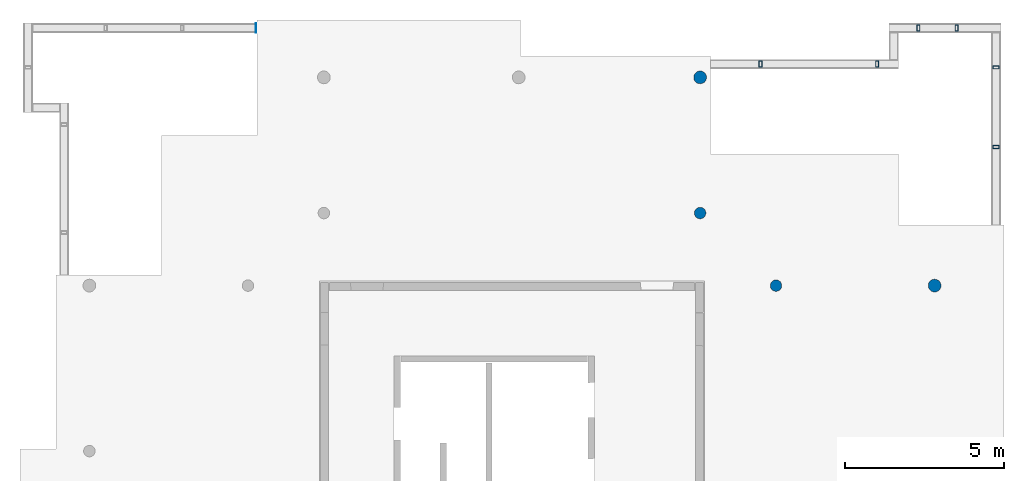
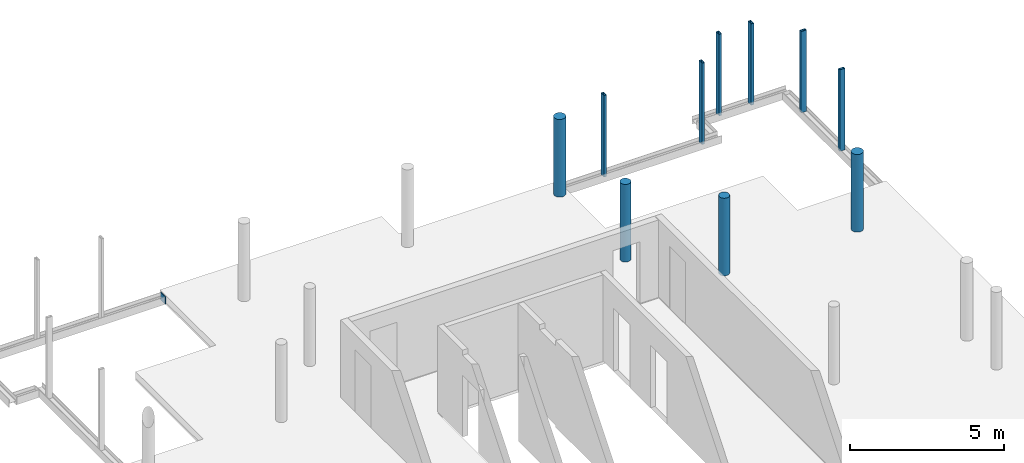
# One storey, part 4 of 7: 11 columns.
"""IFC2X3 building model written with IfcOpenShell, lengths in millimetres."""

from ifc_helpers import new_model, entity, si_unit, converted_unit, derived_unit, direction, frame, frame_2d, origin, origin_2d_with_axis, place, context, subcontext, project, spatial, polyline, circle_curve, parameter, trimmed, segment, composite_curve, rectangle, circle, outline, extrude, source, transform, mapped, material, type_object, type_shapes, element, save


model = new_model("IFC2X3")

# Units and contexts
model_context = context("Model", 3, precision=0.01, world=origin(), true_north=direction((6.12303176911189e-17, 1.0)))
body_context = subcontext(model_context, "Body", "Model", "MODEL_VIEW")
ifc_project = project(units=[si_unit("LENGTHUNIT", "METRE", prefix="MILLI"), si_unit("AREAUNIT", "SQUARE_METRE"), si_unit("VOLUMEUNIT", "CUBIC_METRE"), converted_unit("PLANEANGLEUNIT", "DEGREE", entity("IfcRatioMeasure", 0.0174532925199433), si_unit("PLANEANGLEUNIT", "RADIAN"), dimensions=[0, 0, 0, 0, 0, 0, 0]), si_unit("MASSUNIT", "GRAM", prefix="KILO"), derived_unit("MASSDENSITYUNIT", [(si_unit("MASSUNIT", "GRAM", prefix="KILO"), 1), (si_unit("LENGTHUNIT", "METRE"), -3)]), si_unit("TIMEUNIT", "SECOND"), si_unit("FREQUENCYUNIT", "HERTZ"), si_unit("THERMODYNAMICTEMPERATUREUNIT", "DEGREE_CELSIUS"), derived_unit("THERMALTRANSMITTANCEUNIT", [(si_unit("MASSUNIT", "GRAM", prefix="KILO"), 1), (si_unit("THERMODYNAMICTEMPERATUREUNIT", "KELVIN"), -1), (si_unit("TIMEUNIT", "SECOND"), -3)]), derived_unit("VOLUMETRICFLOWRATEUNIT", [(si_unit("LENGTHUNIT", "METRE"), 3), (si_unit("TIMEUNIT", "SECOND"), -1)]), si_unit("ELECTRICCURRENTUNIT", "AMPERE"), si_unit("ELECTRICVOLTAGEUNIT", "VOLT"), si_unit("POWERUNIT", "WATT"), si_unit("FORCEUNIT", "NEWTON", prefix="KILO"), si_unit("ILLUMINANCEUNIT", "LUX"), si_unit("LUMINOUSFLUXUNIT", "LUMEN"), si_unit("LUMINOUSINTENSITYUNIT", "CANDELA"), derived_unit("USERDEFINED", [(si_unit("MASSUNIT", "GRAM", prefix="KILO"), -1), (si_unit("LENGTHUNIT", "METRE"), -2), (si_unit("TIMEUNIT", "SECOND"), 3), (si_unit("LUMINOUSFLUXUNIT", "LUMEN"), 1)]), derived_unit("LINEARVELOCITYUNIT", [(si_unit("LENGTHUNIT", "METRE"), 1), (si_unit("TIMEUNIT", "SECOND"), -1)]), si_unit("PRESSUREUNIT", "PASCAL"), derived_unit("USERDEFINED", [(si_unit("LENGTHUNIT", "METRE"), -2), (si_unit("MASSUNIT", "GRAM", prefix="KILO"), 1), (si_unit("TIMEUNIT", "SECOND"), -2)])], contexts=[model_context])

# Site, building, storey
site_placement = place(None, origin())
site = spatial("IfcSite", under=ifc_project, at=site_placement, Name="Default", CompositionType="ELEMENT")
building_placement = place(site_placement, origin())
building = spatial("IfcBuilding", under=site, at=building_placement, Name="niet gebruiken", CompositionType="ELEMENT")
storey_placement = place(building_placement, frame((0.0, 0.0, 168300.0)))
storey = spatial("IfcBuildingStorey", under=building, at=storey_placement, Name="54 vierenvijftigste verdieping", CompositionType="ELEMENT", Elevation=168300.0)

# Columns
ifc_material_1 = material(Name="NLRS_f2_beton prefab")
column_type_1 = type_object("IfcColumnType", Name="ø400", PredefinedType="COLUMN", material=ifc_material_1)
shared_shape_1 = source(origin(), body_context, "Body", "SweptSolid", [
    extrude(circle(Radius=199.999999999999, at=origin_2d_with_axis()), frame((147650.0, 31130.0, 168230.0), z_axis=(0.0, 0.0, 1.0), x_axis=(0.0, -1.0, 0.0)), (0.0, 0.0, 1.0), 3070.0),
])
type_shapes(column_type_1, [shared_shape_1])
column_1_placement = place(storey_placement, frame((0.0, 0.0, -168300.0)))
element("IfcColumn", 1, at=column_1_placement, inside=storey, type_object=column_type_1, material=ifc_material_1, Name="NLRS_28. kolom rond_gen:ø400", ObjectType="ø400", context=body_context, shape_type="MappedRepresentation", body=[
    mapped(shared_shape_1, transform((0.0, 0.0, 0.0), scale=1.0)),
])
column_type_2 = type_object("IfcColumnType", Name="ø400", PredefinedType="COLUMN", material=ifc_material_1)
shared_shape_2 = source(origin(), body_context, "Body", "SweptSolid", [
    extrude(circle(Radius=199.999999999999, at=origin_2d_with_axis()), frame((155005.0, 24600.0, 168230.0), z_axis=(0.0, 0.0, 1.0), x_axis=(0.0, -1.0, 0.0)), (0.0, 0.0, 1.0), 3070.0),
])
type_shapes(column_type_2, [shared_shape_2])
column_2_placement = place(storey_placement, frame((0.0, 0.0, -168300.0)))
element("IfcColumn", 2, at=column_2_placement, inside=storey, type_object=column_type_2, material=ifc_material_1, Name="NLRS_28. kolom rond_gen:ø400", ObjectType="ø400", context=body_context, shape_type="MappedRepresentation", body=[
    mapped(shared_shape_2, transform((0.0, 0.0, 0.0), scale=1.0)),
])
column_type_3 = type_object("IfcColumnType", Name="ø360", PredefinedType="COLUMN", material=ifc_material_1)
shared_shape_3 = source(origin(), body_context, "Body", "SweptSolid", [
    extrude(circle(Radius=179.999999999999, at=origin_2d_with_axis()), frame((150030.0, 24600.0, 168230.0), z_axis=(0.0, 0.0, 1.0), x_axis=(0.0, -1.0, 0.0)), (0.0, 0.0, 1.0), 3070.0),
])
type_shapes(column_type_3, [shared_shape_3])
column_3_placement = place(storey_placement, frame((0.0, 0.0, -168300.0)))
element("IfcColumn", 3, at=column_3_placement, inside=storey, type_object=column_type_3, material=ifc_material_1, Name="NLRS_28. kolom rond_gen:ø360", ObjectType="ø360", context=body_context, shape_type="MappedRepresentation", body=[
    mapped(shared_shape_3, transform((0.0, 0.0, 0.0), scale=1.0)),
])
column_type_4 = type_object("IfcColumnType", Name="ø360", PredefinedType="COLUMN", material=ifc_material_1)
shared_shape_4 = source(origin(), body_context, "Body", "SweptSolid", [
    extrude(circle(Radius=179.999999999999, at=origin_2d_with_axis()), frame((147650.0, 26875.0, 168230.0), z_axis=(0.0, 0.0, 1.0), x_axis=(0.0, -1.0, 0.0)), (0.0, 0.0, 1.0), 3070.0),
])
type_shapes(column_type_4, [shared_shape_4])
column_4_placement = place(storey_placement, frame((0.0, 0.0, -168300.0)))
element("IfcColumn", 4, at=column_4_placement, inside=storey, type_object=column_type_4, material=ifc_material_1, Name="NLRS_28. kolom rond_gen:ø360", ObjectType="ø360", context=body_context, shape_type="MappedRepresentation", body=[
    mapped(shared_shape_4, transform((0.0, 0.0, 0.0), scale=1.0)),
])
ifc_material_2 = material(Name="NLRS_h2_staal")
column_type_5 = type_object("IfcColumnType", Name="kolom buisprofiel rechthoekig RHSH_200x100x10", PredefinedType="COLUMN", material=ifc_material_2)
shared_shape_5 = source(origin(), body_context, "Body", "SweptSolid", [
    extrude(outline(polyline([(-100.0, -50.0), (100.0, -50.0), (100.0, 50.0), (-100.0, 50.0), (-100.0, -50.0)]), holes=[composite_curve([segment(trimmed(circle_curve(frame_2d((-80.0, -30.0), x_axis=(0.0, 1.0)), 10.0), [parameter(90.0000000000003)], [parameter(180.0)], True, "PARAMETER"), False, "CONTINUOUS"), segment(polyline([(-90.0, -30.0), (-90.0, 30.0)]), True, "CONTINUOUS"), segment(trimmed(circle_curve(frame_2d((-80.0, 30.0), x_axis=(0.0, 1.0)), 10.0), [parameter(360.0)], [parameter(89.9999999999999)], True, "PARAMETER"), False, "CONTINUOUS"), segment(polyline([(-80.0, 40.0), (80.0, 40.0)]), True, "CONTINUOUS"), segment(trimmed(circle_curve(frame_2d((80.0, 30.0), x_axis=(0.0, 1.0)), 10.0), [parameter(270.0)], [parameter(360.0)], True, "PARAMETER"), False, "CONTINUOUS"), segment(polyline([(90.0, 30.0), (90.0, -30.0)]), True, "CONTINUOUS"), segment(trimmed(circle_curve(frame_2d((80.0, -30.0), x_axis=(0.0, 1.0)), 10.0), [parameter(180.0)], [parameter(270.0)], True, "PARAMETER"), False, "CONTINUOUS"), segment(polyline([(80.0, -40.0), (-80.0, -40.0)]), True, "CONTINUOUS")], self_intersect=False)]), frame((155695.0, 32680.0, 168040.5), z_axis=(0.0, 0.0, 1.0), x_axis=(0.0, 1.0, 0.0)), (0.0, 0.0, 1.0), 3219.50000000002),
])
type_shapes(column_type_5, [shared_shape_5])
column_5_placement = place(storey_placement, frame((0.0, 0.0, -168300.0)))
element("IfcColumn", 5, at=column_5_placement, inside=storey, type_object=column_type_5, material=ifc_material_2, Name="NLRS_28.11_SCO_TLB_stalen kolom buisprofiel rechthoekig_gen:kolom buisprofiel rechthoekig RHSH_200x100x10", ObjectType="kolom buisprofiel rechthoekig RHSH_200x100x10", context=body_context, shape_type="MappedRepresentation", body=[
    mapped(shared_shape_5, transform((0.0, 0.0, 0.0), scale=1.0)),
])
column_type_6 = type_object("IfcColumnType", Name="kolom buisprofiel rechthoekig RHSH_200x100x10", PredefinedType="COLUMN", material=ifc_material_2)
shared_shape_6 = source(origin(), body_context, "Body", "SweptSolid", [
    extrude(outline(polyline([(-100.0, -50.0), (100.0, -50.0), (100.0, 50.0), (-100.0, 50.0), (-100.0, -50.0)]), holes=[composite_curve([segment(trimmed(circle_curve(frame_2d((-80.0, -30.0), x_axis=(0.0, 1.0)), 10.0), [parameter(90.0000000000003)], [parameter(180.0)], True, "PARAMETER"), False, "CONTINUOUS"), segment(polyline([(-90.0, -30.0), (-90.0, 30.0)]), True, "CONTINUOUS"), segment(trimmed(circle_curve(frame_2d((-80.0, 30.0), x_axis=(0.0, 1.0)), 10.0), [parameter(360.0)], [parameter(89.9999999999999)], True, "PARAMETER"), False, "CONTINUOUS"), segment(polyline([(-80.0, 40.0), (80.0, 40.0)]), True, "CONTINUOUS"), segment(trimmed(circle_curve(frame_2d((80.0, 30.0), x_axis=(0.0, 1.0)), 10.0), [parameter(270.0)], [parameter(360.0)], True, "PARAMETER"), False, "CONTINUOUS"), segment(polyline([(90.0, 30.0), (90.0, -30.0)]), True, "CONTINUOUS"), segment(trimmed(circle_curve(frame_2d((80.0, -30.0), x_axis=(0.0, 1.0)), 10.0), [parameter(180.0)], [parameter(270.0)], True, "PARAMETER"), False, "CONTINUOUS"), segment(polyline([(80.0, -40.0), (-80.0, -40.0)]), True, "CONTINUOUS")], self_intersect=False)]), frame((154495.0, 32680.0, 168040.5), z_axis=(0.0, 0.0, 1.0), x_axis=(0.0, 1.0, 0.0)), (0.0, 0.0, 1.0), 3219.50000000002),
])
type_shapes(column_type_6, [shared_shape_6])
column_6_placement = place(storey_placement, frame((0.0, 0.0, -168300.0)))
element("IfcColumn", 6, at=column_6_placement, inside=storey, type_object=column_type_6, material=ifc_material_2, Name="NLRS_28.11_SCO_TLB_stalen kolom buisprofiel rechthoekig_gen:kolom buisprofiel rechthoekig RHSH_200x100x10", ObjectType="kolom buisprofiel rechthoekig RHSH_200x100x10", context=body_context, shape_type="MappedRepresentation", body=[
    mapped(shared_shape_6, transform((0.0, 0.0, 0.0), scale=1.0)),
])
column_type_7 = type_object("IfcColumnType", Name="kolom buisprofiel rechthoekig RHSH_200x100x10", PredefinedType="COLUMN", material=ifc_material_2)
shared_shape_7 = source(origin(), body_context, "Body", "SweptSolid", [
    extrude(outline(polyline([(-100.0, -50.0), (100.0, -50.0), (100.0, 50.0), (-100.0, 50.0), (-100.0, -50.0)]), holes=[composite_curve([segment(trimmed(circle_curve(frame_2d((-80.0, -30.0), x_axis=(0.0, 1.0)), 10.0), [parameter(90.0000000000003)], [parameter(180.0)], True, "PARAMETER"), False, "CONTINUOUS"), segment(polyline([(-90.0, -30.0), (-90.0, 30.0)]), True, "CONTINUOUS"), segment(trimmed(circle_curve(frame_2d((-80.0, 30.0), x_axis=(0.0, 1.0)), 10.0), [parameter(360.0)], [parameter(89.9999999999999)], True, "PARAMETER"), False, "CONTINUOUS"), segment(polyline([(-80.0, 40.0), (80.0, 40.0)]), True, "CONTINUOUS"), segment(trimmed(circle_curve(frame_2d((80.0, 30.0), x_axis=(0.0, 1.0)), 10.0), [parameter(270.0)], [parameter(360.0)], True, "PARAMETER"), False, "CONTINUOUS"), segment(polyline([(90.0, 30.0), (90.0, -30.0)]), True, "CONTINUOUS"), segment(trimmed(circle_curve(frame_2d((80.0, -30.0), x_axis=(0.0, 1.0)), 10.0), [parameter(180.0)], [parameter(270.0)], True, "PARAMETER"), False, "CONTINUOUS"), segment(polyline([(80.0, -40.0), (-80.0, -40.0)]), True, "CONTINUOUS")], self_intersect=False)]), frame((156930.0, 31445.0, 168040.5)), (0.0, 0.0, 1.0), 3219.50000000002),
])
type_shapes(column_type_7, [shared_shape_7])
column_7_placement = place(storey_placement, frame((0.0, 0.0, -168300.0)))
element("IfcColumn", 7, at=column_7_placement, inside=storey, type_object=column_type_7, material=ifc_material_2, Name="NLRS_28.11_SCO_TLB_stalen kolom buisprofiel rechthoekig_gen:kolom buisprofiel rechthoekig RHSH_200x100x10", ObjectType="kolom buisprofiel rechthoekig RHSH_200x100x10", context=body_context, shape_type="MappedRepresentation", body=[
    mapped(shared_shape_7, transform((0.0, 0.0, 0.0), scale=1.0)),
])
column_type_8 = type_object("IfcColumnType", Name="kolom buisprofiel rechthoekig RHSH_200x100x10", PredefinedType="COLUMN", material=ifc_material_2)
shared_shape_8 = source(origin(), body_context, "Body", "SweptSolid", [
    extrude(outline(polyline([(-100.0, -50.0), (100.0, -50.0), (100.0, 50.0), (-100.0, 50.0), (-100.0, -50.0)]), holes=[composite_curve([segment(trimmed(circle_curve(frame_2d((-80.0, -30.0), x_axis=(0.0, 1.0)), 10.0), [parameter(90.0000000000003)], [parameter(180.0)], True, "PARAMETER"), False, "CONTINUOUS"), segment(polyline([(-90.0, -30.0), (-90.0, 30.0)]), True, "CONTINUOUS"), segment(trimmed(circle_curve(frame_2d((-80.0, 30.0), x_axis=(0.0, 1.0)), 10.0), [parameter(360.0)], [parameter(89.9999999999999)], True, "PARAMETER"), False, "CONTINUOUS"), segment(polyline([(-80.0, 40.0), (80.0, 40.0)]), True, "CONTINUOUS"), segment(trimmed(circle_curve(frame_2d((80.0, 30.0), x_axis=(0.0, 1.0)), 10.0), [parameter(270.0)], [parameter(360.0)], True, "PARAMETER"), False, "CONTINUOUS"), segment(polyline([(90.0, 30.0), (90.0, -30.0)]), True, "CONTINUOUS"), segment(trimmed(circle_curve(frame_2d((80.0, -30.0), x_axis=(0.0, 1.0)), 10.0), [parameter(180.0)], [parameter(270.0)], True, "PARAMETER"), False, "CONTINUOUS"), segment(polyline([(80.0, -40.0), (-80.0, -40.0)]), True, "CONTINUOUS")], self_intersect=False)]), frame((156930.0, 28945.0, 168040.5)), (0.0, 0.0, 1.0), 3219.50000000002),
])
type_shapes(column_type_8, [shared_shape_8])
column_8_placement = place(storey_placement, frame((0.0, 0.0, -168300.0)))
element("IfcColumn", 8, at=column_8_placement, inside=storey, type_object=column_type_8, material=ifc_material_2, Name="NLRS_28.11_SCO_TLB_stalen kolom buisprofiel rechthoekig_gen:kolom buisprofiel rechthoekig RHSH_200x100x10", ObjectType="kolom buisprofiel rechthoekig RHSH_200x100x10", context=body_context, shape_type="MappedRepresentation", body=[
    mapped(shared_shape_8, transform((0.0, 0.0, 0.0), scale=1.0)),
])
column_type_9 = type_object("IfcColumnType", Name="kolom buisprofiel rechthoekig RHSH_200x100x10", PredefinedType="COLUMN", material=ifc_material_2)
shared_shape_9 = source(origin(), body_context, "Body", "SweptSolid", [
    extrude(outline(polyline([(-100.0, -50.0), (100.0, -50.0), (100.0, 50.0), (-100.0, 50.0), (-100.0, -50.0)]), holes=[composite_curve([segment(trimmed(circle_curve(frame_2d((-80.0, -30.0), x_axis=(0.0, 1.0)), 10.0), [parameter(90.0000000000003)], [parameter(180.0)], True, "PARAMETER"), False, "CONTINUOUS"), segment(polyline([(-90.0, -30.0), (-90.0, 30.0)]), True, "CONTINUOUS"), segment(trimmed(circle_curve(frame_2d((-80.0, 30.0), x_axis=(0.0, 1.0)), 10.0), [parameter(360.0)], [parameter(89.9999999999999)], True, "PARAMETER"), False, "CONTINUOUS"), segment(polyline([(-80.0, 40.0), (80.0, 40.0)]), True, "CONTINUOUS"), segment(trimmed(circle_curve(frame_2d((80.0, 30.0), x_axis=(0.0, 1.0)), 10.0), [parameter(270.0)], [parameter(360.0)], True, "PARAMETER"), False, "CONTINUOUS"), segment(polyline([(90.0, 30.0), (90.0, -30.0)]), True, "CONTINUOUS"), segment(trimmed(circle_curve(frame_2d((80.0, -30.0), x_axis=(0.0, 1.0)), 10.0), [parameter(180.0)], [parameter(270.0)], True, "PARAMETER"), False, "CONTINUOUS"), segment(polyline([(80.0, -40.0), (-80.0, -40.0)]), True, "CONTINUOUS")], self_intersect=False)]), frame((153202.0, 31548.9987649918, 168040.5), z_axis=(0.0, 0.0, 1.0), x_axis=(0.0, 1.0, 0.0)), (0.0, 0.0, 1.0), 3219.50000000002),
])
type_shapes(column_type_9, [shared_shape_9])
column_9_placement = place(storey_placement, frame((0.0, 0.0, -168300.0)))
element("IfcColumn", 9, at=column_9_placement, inside=storey, type_object=column_type_9, material=ifc_material_2, Name="NLRS_28.11_SCO_TLB_stalen kolom buisprofiel rechthoekig_gen:kolom buisprofiel rechthoekig RHSH_200x100x10", ObjectType="kolom buisprofiel rechthoekig RHSH_200x100x10", context=body_context, shape_type="MappedRepresentation", body=[
    mapped(shared_shape_9, transform((0.0, 0.0, 0.0), scale=1.0)),
])
column_type_10 = type_object("IfcColumnType", Name="kolom buisprofiel rechthoekig RHSH_200x100x10", PredefinedType="COLUMN", material=ifc_material_2)
shared_shape_10 = source(origin(), body_context, "Body", "SweptSolid", [
    extrude(outline(polyline([(-100.0, -50.0), (100.0, -50.0), (100.0, 50.0), (-100.0, 50.0), (-100.0, -50.0)]), holes=[composite_curve([segment(trimmed(circle_curve(frame_2d((-80.0, -30.0), x_axis=(0.0, 1.0)), 10.0), [parameter(90.0000000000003)], [parameter(180.0)], True, "PARAMETER"), False, "CONTINUOUS"), segment(polyline([(-90.0, -30.0), (-90.0, 30.0)]), True, "CONTINUOUS"), segment(trimmed(circle_curve(frame_2d((-80.0, 30.0), x_axis=(0.0, 1.0)), 10.0), [parameter(360.0)], [parameter(89.9999999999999)], True, "PARAMETER"), False, "CONTINUOUS"), segment(polyline([(-80.0, 40.0), (80.0, 40.0)]), True, "CONTINUOUS"), segment(trimmed(circle_curve(frame_2d((80.0, 30.0), x_axis=(0.0, 1.0)), 10.0), [parameter(270.0)], [parameter(360.0)], True, "PARAMETER"), False, "CONTINUOUS"), segment(polyline([(90.0, 30.0), (90.0, -30.0)]), True, "CONTINUOUS"), segment(trimmed(circle_curve(frame_2d((80.0, -30.0), x_axis=(0.0, 1.0)), 10.0), [parameter(180.0)], [parameter(270.0)], True, "PARAMETER"), False, "CONTINUOUS"), segment(polyline([(80.0, -40.0), (-80.0, -40.0)]), True, "CONTINUOUS")], self_intersect=False)]), frame((149542.0, 31549.0, 168040.5), z_axis=(0.0, 0.0, 1.0), x_axis=(0.0, 1.0, 0.0)), (0.0, 0.0, 1.0), 3219.50000000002),
])
type_shapes(column_type_10, [shared_shape_10])
column_10_placement = place(storey_placement, frame((0.0, 0.0, -168300.0)))
element("IfcColumn", 10, at=column_10_placement, inside=storey, type_object=column_type_10, material=ifc_material_2, Name="NLRS_28.11_SCO_TLB_stalen kolom buisprofiel rechthoekig_gen:kolom buisprofiel rechthoekig RHSH_200x100x10", ObjectType="kolom buisprofiel rechthoekig RHSH_200x100x10", context=body_context, shape_type="MappedRepresentation", body=[
    mapped(shared_shape_10, transform((0.0, 0.0, 0.0), scale=1.0)),
])
column_type_11 = type_object("IfcColumnType", Name="kolom stripstaal RECT_300x25", PredefinedType="COLUMN", material=ifc_material_2)
shared_shape_11 = source(origin(), body_context, "Body", "SweptSolid", [
    extrude(rectangle(XDim=300.000000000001, YDim=24.9999999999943, at=frame_2d((-2.1600499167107e-12, 0.0), x_axis=(1.0, 0.0))), frame((133722.5, 32680.0, 167885.0), z_axis=(0.0, 0.0, 1.0), x_axis=(0.0, -1.0, 0.0)), (0.0, 0.0, 1.0), 300.000000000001),
])
type_shapes(column_type_11, [shared_shape_11])
column_11_placement = place(storey_placement, frame((0.0, 0.0, -168300.0)))
element("IfcColumn", 11, at=column_11_placement, inside=storey, type_object=column_type_11, material=ifc_material_2, Name="NLRS_28.11_SCO_TLB_stalen kolom stripstaal_gen:kolom stripstaal RECT_300x25", ObjectType="kolom stripstaal RECT_300x25", context=body_context, shape_type="MappedRepresentation", body=[
    mapped(shared_shape_11, transform((0.0, 0.0, 0.0), scale=1.0)),
])

save(model, "model.ifc")
